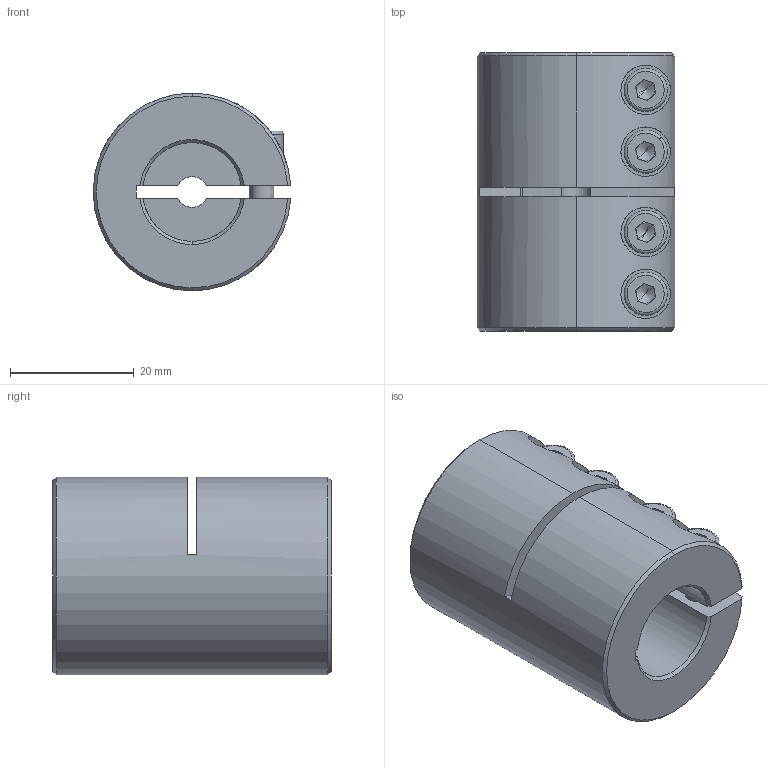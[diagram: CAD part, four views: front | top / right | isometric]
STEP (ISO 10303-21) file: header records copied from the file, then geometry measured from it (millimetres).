
FILE_DESCRIPTION (( 'STEP AP214' ), '1' );
FILE_NAME ('LL-B-D32L45-5-16½¨Ä£.STEP', '2022-07-21T06:25:12', ( '' ), ( '' ), 'SwSTEP 2.0', 'SolidWorks 2022', '' );
FILE_SCHEMA (( 'AUTOMOTIVE_DESIGN' ));
Length unit declared in the file: millimetre
Products named in the file (1): LL-B-D32L45-5-16膘耀
Bounding box: 31.97 x 45 x 32 mm (x, y, z)
Volume: 29040.1 mm3; surface area: 10898.1 mm2
Topology: 1 solids, 1 shells, 193 faces, 492 edges, 309 vertices
Faces by surface type: plane 88, cylinder 77, cone 20, torus 8
Entity records: 6357 total; most frequent: CARTESIAN_POINT 1583, DIRECTION 1037, ORIENTED_EDGE 968, EDGE_CURVE 484, AXIS2_PLACEMENT_3D 403, VERTEX_POINT 309, LINE 231, VECTOR 231
